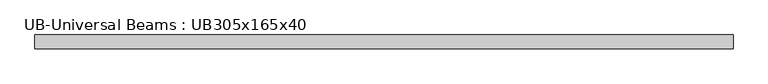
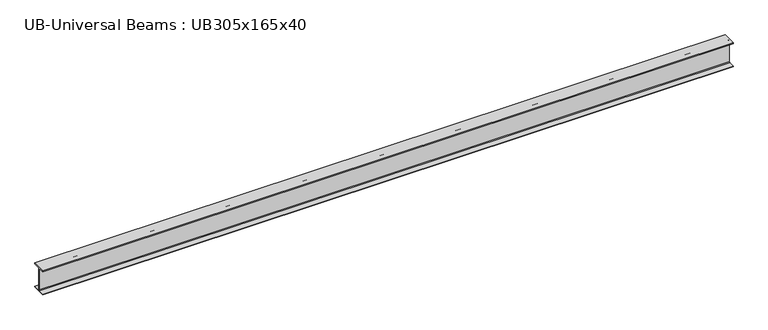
"""IFC4 building model written with IfcOpenShell, lengths in millimetres: beam geometry, UB-Universal Beams : UB305x165x40."""

import ifcopenshell
import ifcopenshell.guid

model = None  # the IFC model being written
_history = None  # IfcOwnerHistory: only IFC2X3 demands one
_inside = {}  # id of a spatial element -> (the spatial element, [elements in it])
_under = {}  # id of a project, library or spatial element -> (it, [spatial elements below it])
_declared = {}  # id of a project -> (the project, [libraries it declares])
_typed = {}  # id of a type object -> (the type object, [elements of that type])
_made_of = {}  # id of a material, layer set ... -> (it, [elements and type objects made of it])


def new_model(schema):
    """Start an empty IFC model of exactly this schema.

    Asked for "IFC4X3", IfcOpenShell would pick the latest addendum, in which some entities
    have other attributes; the version numbers below select the first issue.
    IFC2X3 requires an IfcOwnerHistory on every rooted entity: one is made here for all.
    """
    global model, _history
    if schema == "IFC4X3":
        model = ifcopenshell.file(schema_version=(4, 3, 0, 0))
    else:
        model = ifcopenshell.file(schema=schema)
    _inside.clear()
    _under.clear()
    _declared.clear()
    _typed.clear()
    _made_of.clear()
    _history = None
    if model.schema == "IFC2X3":
        org = make("IfcOrganization", Name="unknown")
        user = make(
            "IfcPersonAndOrganization",
            ThePerson=make("IfcPerson", FamilyName="unknown"),
            TheOrganization=org,
        )
        app = make(
            "IfcApplication",
            ApplicationDeveloper=org,
            Version="unknown",
            ApplicationFullName="unknown",
            ApplicationIdentifier="unknown",
        )
        _history = make(
            "IfcOwnerHistory",
            OwningUser=user,
            OwningApplication=app,
            ChangeAction="ADDED",
            CreationDate=0,
        )
    return model


def make(cls, **values):
    """One entity of the class cls with the attributes given. An attribute that is None is left unset."""
    return model.create_entity(
        cls, **{name: value for name, value in values.items() if value is not None}
    )


def rooted(cls, **values):
    """An entity with a GlobalId (a new one), such as an element, a storey or a relation."""
    return make(cls, GlobalId=ifcopenshell.guid.new(), OwnerHistory=_history, **values)


def si_unit(unit_type, name, prefix=None):
    """IfcSIUnit, for example si_unit("LENGTHUNIT", "METRE", prefix="MILLI")."""
    return make("IfcSIUnit", UnitType=unit_type, Prefix=prefix, Name=name)


def assignment(units):
    """IfcUnitAssignment: the units of a project."""
    return None if units is None else make("IfcUnitAssignment", Units=units)


def point(xyz):
    """IfcCartesianPoint."""
    return None if xyz is None else make("IfcCartesianPoint", Coordinates=xyz)


def direction(xyz):
    """IfcDirection."""
    return None if xyz is None else make("IfcDirection", DirectionRatios=xyz)


def frame(location, z_axis=None, x_axis=None):
    """IfcAxis2Placement3D, a coordinate frame: its origin and axes. An axis left out is left unset."""
    return make(
        "IfcAxis2Placement3D",
        Location=point(location),
        Axis=direction(z_axis),
        RefDirection=direction(x_axis),
    )


def frame_2d(location, x_axis=None):
    """IfcAxis2Placement2D, a coordinate frame in the plane: its origin and x axis."""
    return make(
        "IfcAxis2Placement2D", Location=point(location), RefDirection=direction(x_axis)
    )


def origin():
    """The frame at (0, 0, 0) with its axes left unset."""
    return frame((0.0, 0.0, 0.0))


def place(relative_to, where):
    """IfcLocalPlacement: puts the frame where relative to a parent placement (None: the world)."""
    return make(
        "IfcLocalPlacement", PlacementRelTo=relative_to, RelativePlacement=where
    )


def context(
    kind, dimensions, precision=None, world=None, true_north=None, identifier=None
):
    """IfcGeometricRepresentationContext, for example the 3D "Model" context."""
    return make(
        "IfcGeometricRepresentationContext",
        ContextIdentifier=identifier,
        ContextType=kind,
        CoordinateSpaceDimension=dimensions,
        Precision=precision,
        WorldCoordinateSystem=world,
        TrueNorth=true_north,
    )


def project(units=None, contexts=None):
    """IfcProject with its units and contexts."""
    return rooted(
        "IfcProject",
        Name="project",
        RepresentationContexts=contexts,
        UnitsInContext=assignment(units),
    )


def spatial(cls, under=None, at=None, **own):
    """A site, building, storey or space (cls), placed at a placement, below another one or the project."""
    s = rooted(cls, ObjectPlacement=at, **own)
    if under is not None:
        _under.setdefault(under.id(), (under, []))[1].append(s)
    return s


def polyline(points):
    """IfcPolyline through the points."""
    return make("IfcPolyline", Points=[point(p) for p in points])


def circle_curve(where, radius):
    """IfcCircle in the frame where."""
    return make("IfcCircle", Position=where, Radius=radius)


def trimmed(basis, trim1, trim2, sense, master):
    """IfcTrimmedCurve: the piece of a basis curve between two trims."""
    return make(
        "IfcTrimmedCurve",
        BasisCurve=basis,
        Trim1=trim1,
        Trim2=trim2,
        SenseAgreement=sense,
        MasterRepresentation=master,
    )


def segment(curve, same_sense, transition):
    """IfcCompositeCurveSegment."""
    return make(
        "IfcCompositeCurveSegment",
        Transition=transition,
        SameSense=same_sense,
        ParentCurve=curve,
    )


def composite_curve(segments, self_intersect=None):
    """IfcCompositeCurve: segments joined end to end."""
    return make("IfcCompositeCurve", Segments=segments, SelfIntersect=self_intersect)


def outline(outer, holes=None, kind="AREA"):
    """IfcArbitraryClosedProfileDef: a profile drawn as a closed curve; with holes, ...WithVoids."""
    if holes is None:
        return make("IfcArbitraryClosedProfileDef", ProfileType=kind, OuterCurve=outer)
    return make(
        "IfcArbitraryProfileDefWithVoids",
        ProfileType=kind,
        OuterCurve=outer,
        InnerCurves=holes,
    )


def extrude(swept, where, along, depth):
    """IfcExtrudedAreaSolid: the profile swept, set in the frame where, extruded along a direction by depth."""
    return make(
        "IfcExtrudedAreaSolid",
        SweptArea=swept,
        Position=where,
        ExtrudedDirection=direction(along),
        Depth=depth,
    )


def shape(context_of_items, identifier, shape_type, items):
    """IfcShapeRepresentation: the items that make up one representation, for example the "Body"."""
    return make(
        "IfcShapeRepresentation",
        ContextOfItems=context_of_items,
        RepresentationIdentifier=identifier,
        RepresentationType=shape_type,
        Items=items,
    )


def source(mapping_origin, context_of_items, identifier, shape_type, items):
    """IfcRepresentationMap: a shape defined once, which mapped items show again and again."""
    return make(
        "IfcRepresentationMap",
        MappingOrigin=mapping_origin,
        MappedRepresentation=shape(context_of_items, identifier, shape_type, items),
    )


def transform(
    local_origin,
    x_axis=None,
    y_axis=None,
    z_axis=None,
    scale=None,
    scale2=None,
    scale3=None,
    uniform=True,
):
    """IfcCartesianTransformationOperator3D, or its non-uniform kind. x_axis, y_axis, z_axis: its Axis1, 2, 3."""
    if uniform:
        return make(
            "IfcCartesianTransformationOperator3D",
            Axis1=direction(x_axis),
            Axis2=direction(y_axis),
            LocalOrigin=point(local_origin),
            Scale=scale,
            Axis3=direction(z_axis),
        )
    return make(
        "IfcCartesianTransformationOperator3DnonUniform",
        Axis1=direction(x_axis),
        Axis2=direction(y_axis),
        LocalOrigin=point(local_origin),
        Scale=scale,
        Axis3=direction(z_axis),
        Scale2=scale2,
        Scale3=scale3,
    )


def mapped(mapping_source, mapping_target):
    """IfcMappedItem: shows the shape of a source again, moved by a transform."""
    return make(
        "IfcMappedItem", MappingSource=mapping_source, MappingTarget=mapping_target
    )


def made_of(thing, what):
    """Note that an element or type object is made of a material, layer set ...; save() writes the relation."""
    if what is not None:
        _made_of.setdefault(what.id(), (what, []))[1].append(thing)
    return thing


def element(
    cls,
    number,
    at=None,
    inside=None,
    cuts=None,
    type_object=None,
    material=None,
    context=None,
    identifier="Body",
    shape_type=None,
    held_by="IfcProductDefinitionShape",
    body=None,
    shapes=None,
    **own,
):
    """One element of the class cls, such as IfcWall. Its Tag is "e" and its number.

    at: its placement. inside: the storey or other place that contains it. cuts: it is an
    opening in that element (IfcRelVoidsElement). A single representation is given by context,
    identifier, shape_type and body (its items); several are given by shapes. held_by: the class
    of the entity that holds the representations. save() writes the other relations.
    """
    e = rooted(cls, Tag="e%d" % number, ObjectPlacement=at, **own)
    if body is not None:
        shapes = [shape(context, identifier, shape_type, body)]
    if shapes is not None:
        e.Representation = make(held_by, Representations=shapes)
    if inside is not None:
        _inside.setdefault(inside.id(), (inside, []))[1].append(e)
    if cuts is not None:
        rooted(
            "IfcRelVoidsElement", RelatingBuildingElement=cuts, RelatedOpeningElement=e
        )
    if type_object is not None:
        _typed.setdefault(type_object.id(), (type_object, []))[1].append(e)
    return made_of(e, material)


def aggregate(whole, parts):
    """IfcRelAggregates: a whole, such as a stair, and the parts it consists of."""
    return rooted("IfcRelAggregates", RelatingObject=whole, RelatedObjects=parts)


def save(model, path):
    """Write the relations noted so far, then the file.

    IfcRelAggregates (storeys below a building ...), IfcRelContainedInSpatialStructure (elements
    in a storey), IfcRelDefinesByType, IfcRelAssociatesMaterial and IfcRelDeclares: one each for
    every whole, place, type object, material and project.
    """
    for whole, parts in _under.values():
        aggregate(whole, parts)
    for where, things in _inside.values():
        rooted(
            "IfcRelContainedInSpatialStructure",
            RelatedElements=things,
            RelatingStructure=where,
        )
    for kind, things in _typed.values():
        rooted("IfcRelDefinesByType", RelatedObjects=things, RelatingType=kind)
    for what, things in _made_of.values():
        rooted("IfcRelAssociatesMaterial", RelatedObjects=things, RelatingMaterial=what)
    for by, libraries in _declared.values():
        rooted("IfcRelDeclares", RelatingContext=by, RelatedDefinitions=libraries)
    model.write(path)


def ub_universal_beams_ub305x165x40_619b5398(model_context):
    return source(origin(), model_context, "Body", "SweptSolid", [
        extrude(outline(composite_curve([segment(polyline([(82.5, -141.5), (82.5, -151.7), (-82.5, -151.7), (-82.5, -141.5), (-11.9, -141.5)]), True, "CONTINUOUS"), segment(trimmed(circle_curve(frame_2d((-11.9, -132.6)), 8.9), [point((-11.9, -141.5))], [point((-3.0, -132.6))], True, "CARTESIAN"), True, "CONTINUOUS"), segment(polyline([(-3.0, -132.6), (-3.0, 132.6)]), True, "CONTINUOUS"), segment(trimmed(circle_curve(frame_2d((-11.9, 132.6)), 8.9), [point((-3.0, 132.6))], [point((-11.9, 141.5))], True, "CARTESIAN"), True, "CONTINUOUS"), segment(polyline([(-11.9, 141.5), (-82.5, 141.5), (-82.5, 151.7), (82.5, 151.7), (82.5, 141.5), (11.9, 141.5)]), True, "CONTINUOUS"), segment(trimmed(circle_curve(frame_2d((11.9, 132.6)), 8.9), [point((11.9, 141.5))], [point((3.0, 132.6))], True, "CARTESIAN"), True, "CONTINUOUS"), segment(polyline([(3.0, 132.6), (3.0, -132.6)]), True, "CONTINUOUS"), segment(trimmed(circle_curve(frame_2d((11.9, -132.6)), 8.9), [point((3.0, -132.6))], [point((11.9, -141.5))], True, "CARTESIAN"), True, "CONTINUOUS"), segment(polyline([(11.9, -141.5), (82.5, -141.5)]), True, "CONTINUOUS")], self_intersect=False)), frame((-4051.55, 0.0, 0.0), z_axis=(1.0, 0.0, 0.0), x_axis=(0.0, 1.0, 0.0)), (0.0, 0.0, 1.0), 8245.2),
    ])


if __name__ == "__main__":
    model = new_model("IFC4")
    model_context = context("Model", 3, world=origin())
    ifc_project = project(units=[si_unit("LENGTHUNIT", "METRE", prefix="MILLI")], contexts=[model_context])
    site = spatial("IfcSite", under=ifc_project)
    building = spatial("IfcBuilding", under=site)
    placement = place(None, origin())
    ub_universal_beams_ub305x165x40_shape = ub_universal_beams_ub305x165x40_619b5398(model_context)
    element("IfcBeam", 1, ObjectType="UB-Universal Beams : UB305x165x40", at=placement, inside=building, context=model_context, shape_type="MappedRepresentation", body=[
        mapped(ub_universal_beams_ub305x165x40_shape, transform((0.0, 0.0, 0.0), x_axis=(1.0, 0.0, 0.0), y_axis=(0.0, 1.0, 0.0), z_axis=(0.0, 0.0, 1.0))),
    ])
    save(model, "model.ifc")
